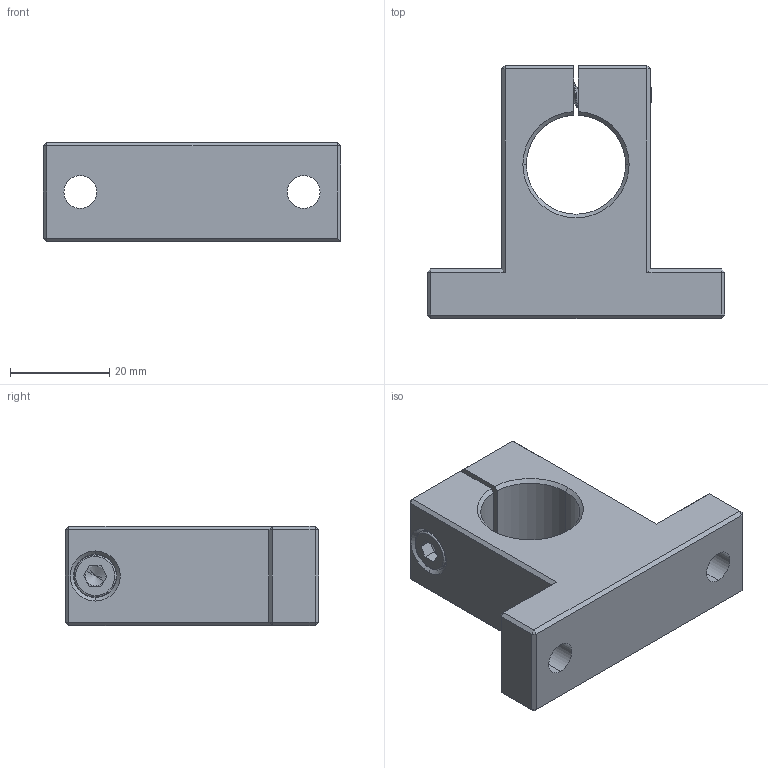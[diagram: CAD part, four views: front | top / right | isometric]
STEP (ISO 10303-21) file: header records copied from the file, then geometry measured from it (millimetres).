
FILE_DESCRIPTION (( 'STEP AP214' ), '1' );
FILE_NAME ('SK20.STEP', '2020-06-30T06:49:55', ( '' ), ( '' ), 'SwSTEP 2.0', 'SolidWorks 2018', '' );
FILE_SCHEMA (( 'AUTOMOTIVE_DESIGN' ));
Length unit declared in the file: millimetre
Products named in the file (3): SK20 Part2; SK20 Part1; SK20
Assembly tree (2 placements, depth 2):
  SK20
    SK20 Part1
    SK20 Part2
Bounding box: 60 x 51 x 20 mm (x, y, z)
Volume: 29074.8 mm3; surface area: 10261.6 mm2
Topology: 2 solids, 2 shells, 138 faces, 334 edges, 201 vertices
Faces by surface type: plane 62, cylinder 48, cone 18, bspline 6, torus 4
Entity records: 8342 total; most frequent: CARTESIAN_POINT 5202, ORIENTED_EDGE 664, DIRECTION 600, EDGE_CURVE 332, AXIS2_PLACEMENT_3D 207, VERTEX_POINT 201, VECTOR 186, LINE 186
